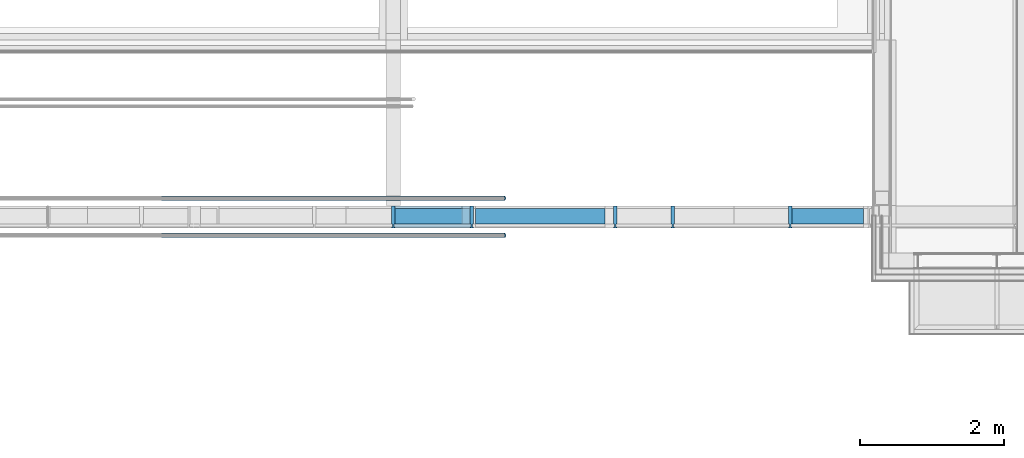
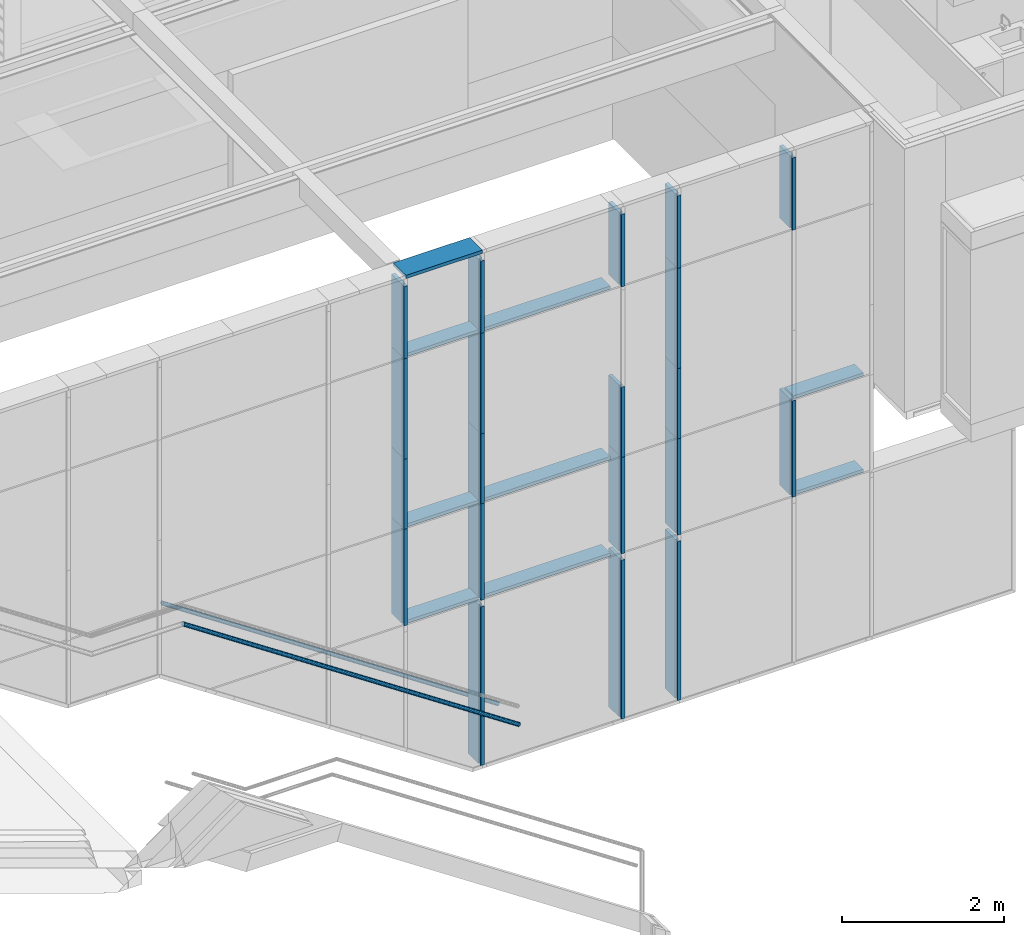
# One storey, part 3 of 137: 31 members, 3 elements without a shape of their own.
"""IFC2X3 building model written with IfcOpenShell, lengths in millimetres."""

from ifc_helpers import new_model, entity, si_unit, converted_unit, derived_unit, money_unit, direction, frame, origin_with_axes, place, context, subcontext, project, spatial, faceted_brep, source, transform, mapped, material, type_object, type_shapes, element, aggregate, save


model = new_model("IFC2X3")

# Units and contexts
model_context = context("Model", 3, precision=0.01, world=origin_with_axes(), true_north=direction((0.0, 1.0)))
body_context = subcontext(model_context, "Body", "Model", "MODEL_VIEW")
ifc_project = project(units=[si_unit("LENGTHUNIT", "METRE", prefix="MILLI"), si_unit("AREAUNIT", "SQUARE_METRE"), si_unit("VOLUMEUNIT", "CUBIC_METRE"), converted_unit("PLANEANGLEUNIT", "DEGREE", entity("IfcPlaneAngleMeasure", 0.0174532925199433), si_unit("PLANEANGLEUNIT", "RADIAN"), dimensions=[0, 0, 0, 0, 0, 0, 0]), money_unit("EUR"), converted_unit("TIMEUNIT", "Year", entity("IfcTimeMeasure", 31556926.0), si_unit("TIMEUNIT", "SECOND"), dimensions=[0, 0, 1, 0, 0, 0, 0]), si_unit("MASSUNIT", "GRAM", prefix="KILO"), si_unit("THERMODYNAMICTEMPERATUREUNIT", "DEGREE_CELSIUS"), si_unit("LUMINOUSINTENSITYUNIT", "LUMEN"), si_unit("ENERGYUNIT", "JOULE", prefix="MEGA"), derived_unit("THERMALCONDUCTANCEUNIT", [(si_unit("POWERUNIT", "WATT"), 1), (si_unit("LENGTHUNIT", "METRE"), -1), (si_unit("THERMODYNAMICTEMPERATUREUNIT", "KELVIN"), -1)]), derived_unit("SPECIFICHEATCAPACITYUNIT", [(si_unit("ENERGYUNIT", "JOULE"), 1), (si_unit("MASSUNIT", "GRAM", prefix="KILO"), -1), (si_unit("THERMODYNAMICTEMPERATUREUNIT", "KELVIN"), -1)]), derived_unit("MASSDENSITYUNIT", [(si_unit("MASSUNIT", "GRAM", prefix="KILO"), 1), (si_unit("VOLUMEUNIT", "CUBIC_METRE"), -1)])], contexts=[model_context])

# Site, building, storey
site_placement = place(None, origin_with_axes())
site = spatial("IfcSite", under=ifc_project, at=site_placement, Name="Site", CompositionType="ELEMENT")
building_placement = place(site_placement, origin_with_axes())
building = spatial("IfcBuilding", under=site, at=building_placement, Name="Naam gebouw", CompositionType="ELEMENT")
storey_placement = place(building_placement, frame((0.0, 0.0, 3960.0), z_axis=(0.0, 0.0, 1.0), x_axis=(1.0, 0.0, 0.0)))
storey = spatial("IfcBuildingStorey", under=building, at=storey_placement, Name="1e verdieping", CompositionType="ELEMENT", Elevation=3960.0)

# Railing, member
railing_type = type_object("IfcRailingType", Name="Railing Type", PredefinedType="NOTDEFINED")
railing_1_placement = place(storey_placement, frame((18789.99987047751, 4162.49999999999, -4086.699999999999), z_axis=(0.0, 0.0, 1.0), x_axis=(1.0, 0.0, 0.0)))
railing_1 = element("IfcRailing", 1, at=railing_1_placement, inside=storey, type_object=railing_type, Name="34_Reling-x", PredefinedType="NOTDEFINED")
ifc_material_1 = material(Name="Metaal - RVS")
member_type_1 = type_object("IfcMemberType", Name="IfcMember", PredefinedType="USERDEFINED")
shared_shape_1 = source(origin_with_axes(), body_context, "Body", "Brep", [
    faceted_brep([(0.0, -30.0, 700.0000000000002), (2.889680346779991, -29.54423259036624, 704.3345205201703), (-4778.437782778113, -29.54423259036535, 3891.886162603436), (-4780.015075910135, -29.99999999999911, 3886.676717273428), (-2.889680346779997, -29.54423259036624, 695.6654794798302), (-5.691559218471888, -28.19077862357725, 691.4626611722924), (-8.320502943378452, -25.98076211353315, 687.5192455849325), (-10.6966323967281, -22.98133329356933, 683.9550514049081), (-12.74775008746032, -19.28362829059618, 680.8783748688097), (-14.41153384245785, -15.0, 678.3826992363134), (-15.63743043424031, -10.26060429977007, 676.5438543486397), (-16.38819161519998, -5.209445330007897, 675.4177125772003), (-16.64100588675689, 0.0, 675.0384911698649), (-16.38819161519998, 5.209445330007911, 675.4177125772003), (-15.63743043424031, 10.26060429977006, 676.5438543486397), (-14.41153384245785, 15.00000000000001, 678.3826992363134), (-12.74775008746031, 19.28362829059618, 680.8783748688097), (-10.69663239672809, 22.98133329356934, 683.9550514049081), (-8.320502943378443, 25.98076211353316, 687.5192455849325), (-5.691559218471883, 28.19077862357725, 691.4626611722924), (-2.889680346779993, 29.54423259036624, 695.6654794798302), (0.0, 30.0, 700.0000000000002), (2.889680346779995, 29.54423259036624, 704.3345205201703), (5.691559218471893, 28.19077862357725, 708.537338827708), (8.320502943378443, 25.98076211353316, 712.4807544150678), (10.69663239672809, 22.98133329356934, 716.0449485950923), (12.74775008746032, 19.28362829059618, 719.1216251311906), (14.41153384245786, 14.99999999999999, 721.6173007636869), (15.63743043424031, 10.26060429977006, 723.4561456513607), (16.38819161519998, 5.209445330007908, 724.5822874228), (16.64100588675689, 0.0, 724.9615088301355), (16.38819161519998, -5.209445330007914, 724.5822874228), (15.63743043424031, -10.26060429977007, 723.4561456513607), (14.41153384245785, -15.00000000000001, 721.6173007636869), (12.74775008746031, -19.28362829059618, 719.1216251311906), (10.69663239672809, -22.98133329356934, 716.0449485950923), (8.32050294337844, -25.98076211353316, 712.4807544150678), (5.691559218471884, -28.19077862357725, 708.537338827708), (-4776.908414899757, -28.19077862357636, 3896.937321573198), (-4775.473441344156, -25.98076211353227, 3901.676717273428), (-4774.176463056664, -22.98133329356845, 3905.960345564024), (-4773.056888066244, -19.28362829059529, 3909.658050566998), (-4772.148734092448, -14.99999999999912, 3912.657479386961), (-4771.479594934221, -10.26060429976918, 3914.867495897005), (-4771.069802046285, -5.209445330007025, 3916.220949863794), (-4770.931806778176, 0.0, 3916.676717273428), (-4771.069802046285, 5.209445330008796, 3916.220949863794), (-4771.479594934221, 10.26060429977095, 3914.867495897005), (-4772.148734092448, 15.00000000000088, 3912.657479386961), (-4773.056888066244, 19.28362829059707, 3909.658050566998), (-4774.176463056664, 22.98133329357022, 3905.960345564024), (-4775.473441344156, 25.98076211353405, 3901.676717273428), (-4776.908414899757, 28.19077862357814, 3896.937321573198), (-4778.437782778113, 29.54423259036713, 3891.886162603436), (-4780.015075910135, 30.00000000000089, 3886.676717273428), (-4781.592369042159, 29.54423259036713, 3881.467271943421), (-4783.121736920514, 28.19077862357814, 3876.416112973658), (-4784.556710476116, 25.98076211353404, 3871.676717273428), (-4785.853688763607, 22.98133329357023, 3867.393088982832), (-4786.973263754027, 19.28362829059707, 3863.695383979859), (-4787.881417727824, 15.0000000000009, 3860.695955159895), (-4788.550556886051, 10.26060429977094, 3858.485938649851), (-4788.960349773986, 5.209445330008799, 3857.132484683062), (-4789.098345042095, 0.0, 3856.676717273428), (-4788.960349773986, -5.20944533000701, 3857.132484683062), (-4788.550556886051, -10.26060429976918, 3858.485938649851), (-4787.881417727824, -14.99999999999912, 3860.695955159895), (-4786.973263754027, -19.28362829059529, 3863.695383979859), (-4785.853688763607, -22.98133329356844, 3867.393088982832), (-4784.556710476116, -25.98076211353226, 3871.676717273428), (-4783.121736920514, -28.19077862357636, 3876.416112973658), (-4781.592369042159, -29.54423259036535, 3881.467271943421)], [[[0, 1, 2, 3]], [[0, 4, 5, 6, 7, 8, 9, 10, 11, 12, 13, 14, 15, 16, 17, 18, 19, 20, 21, 22, 23, 24, 25, 26, 27, 28, 29, 30, 31, 32, 33, 34, 35, 36, 37, 1]], [[1, 37, 38, 2]], [[3, 2, 38, 39, 40, 41, 42, 43, 44, 45, 46, 47, 48, 49, 50, 51, 52, 53, 54, 55, 56, 57, 58, 59, 60, 61, 62, 63, 64, 65, 66, 67, 68, 69, 70, 71]], [[4, 0, 3, 71]], [[5, 4, 71, 70]], [[6, 5, 70, 69]], [[7, 6, 69, 68]], [[8, 7, 68, 67]], [[9, 8, 67, 66]], [[10, 9, 66, 65]], [[11, 10, 65, 64]], [[12, 11, 64, 63]], [[13, 12, 63, 62]], [[14, 13, 62, 61]], [[15, 14, 61, 60]], [[16, 15, 60, 59]], [[17, 16, 59, 58]], [[18, 17, 58, 57]], [[19, 18, 57, 56]], [[20, 19, 56, 55]], [[21, 20, 55, 54]], [[22, 21, 54, 53]], [[23, 22, 53, 52]], [[24, 23, 52, 51]], [[25, 24, 51, 50]], [[26, 25, 50, 49]], [[27, 26, 49, 48]], [[28, 27, 48, 47]], [[29, 28, 47, 46]], [[30, 29, 46, 45]], [[31, 30, 45, 44]], [[32, 31, 44, 43]], [[33, 32, 43, 42]], [[34, 33, 42, 41]], [[35, 34, 41, 40]], [[36, 35, 40, 39]], [[37, 36, 39, 38]]]),
])
type_shapes(member_type_1, [shared_shape_1])
member_1_placement = place(railing_1_placement, frame((-1929.992462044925, -99.99999999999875, 657.5735931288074), z_axis=(0.0, 0.0, 1.0), x_axis=(1.0, 0.0, 0.0)))
member_1 = element("IfcMember", 2, at=member_1_placement, type_object=member_type_1, material=ifc_material_1, Name="h3 Staal legeringen_Regel-x", context=body_context, shape_type="MappedRepresentation", body=[
    mapped(shared_shape_1, transform((2390.007537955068, 0.0, -657.5735931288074))),
])
aggregate(railing_1, [member_1])

railing_2_placement = place(storey_placement, frame((18789.99987047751, 4479.999999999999, -4086.699999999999), z_axis=(0.0, 0.0, 1.0), x_axis=(1.0, 0.0, 0.0)))
railing_2 = element("IfcRailing", 3, at=railing_2_placement, inside=storey, type_object=railing_type, Name="34_Reling-x", PredefinedType="NOTDEFINED")
member_2_placement = place(railing_2_placement, frame((-1929.992462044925, 99.99999999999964, 657.5735931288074), z_axis=(0.0, 0.0, 1.0), x_axis=(1.0, 0.0, 0.0)))
member_2 = element("IfcMember", 4, at=member_2_placement, type_object=member_type_1, material=ifc_material_1, Name="_Regel-x", context=body_context, shape_type="MappedRepresentation", body=[
    mapped(shared_shape_1, transform((2390.007537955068, 0.0, -657.5735931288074))),
])
aggregate(railing_2, [member_2])

# Curtain wall, members
curtain_wall_type = type_object("IfcCurtainWallType", Name="Curtain Wall Type", PredefinedType="NOTDEFINED")
curtain_wall_placement = place(storey_placement, frame((8473.014787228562, 4364.43626274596, -3949.999921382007), z_axis=(0.0, 0.0, 1.0), x_axis=(1.0, 0.0, 0.0)))
curtain_wall = element("IfcCurtainWall", 5, at=curtain_wall_placement, inside=storey, type_object=curtain_wall_type, Name="21_Vliesgevel-x")
ifc_material_2 = material(Name="Metaal - Staal AFW")
member_type_2 = type_object("IfcMemberType", Name="Boundary Frame 50 x 313", PredefinedType="MULLION")
shared_shape_2 = source(origin_with_axes(), body_context, "Body", "Brep", [
    faceted_brep([(-35.0, -17.4, 0.0), (-35.0, -17.4, 1089.999826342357), (-35.0, 21.0, 1089.999826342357), (-35.0, 21.0, 0.0), (-15.0, -17.4, 0.0), (-15.0, -17.4, 1089.999826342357), (-15.0, 21.0, 1089.999826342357), (-15.0, 21.0, 0.0)], [[[0, 1, 2, 3]], [[4, 5, 1, 0]], [[1, 5, 6, 2]], [[3, 2, 6, 7]], [[0, 3, 7, 4]], [[7, 6, 5, 4]]]),
    faceted_brep([(-15.0, -21.0, 0.0), (-15.0, -21.0, 1089.999826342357), (-15.0, 21.0, 1089.999826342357), (-15.0, 21.0, 0.0), (0.0, -21.0, 0.0), (0.0, -21.0, 1089.999826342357), (0.0, 21.0, 1089.999826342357), (0.0, 21.0, 0.0)], [[[0, 1, 2, 3]], [[4, 5, 1, 0]], [[1, 5, 6, 2]], [[3, 2, 6, 7]], [[0, 3, 7, 4]], [[7, 6, 5, 4]]]),
    faceted_brep([(-50.0, -272.0, 0.0), (-50.0, -272.0, 1089.999826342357), (-50.0, -17.4, 1089.999826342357), (-50.0, -17.4, 0.0), (0.0, -272.0, 0.0), (0.0, -272.0, 1089.999826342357), (0.0, -17.4, 1089.999826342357), (0.0, -17.4, 0.0)], [[[0, 1, 2, 3]], [[4, 5, 1, 0]], [[1, 5, 6, 2]], [[3, 2, 6, 7]], [[0, 3, 7, 4]], [[7, 6, 5, 4]]]),
    faceted_brep([(0.0, 40.99999999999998, 0.0), (0.0, 40.99999999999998, 1089.999826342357), (0.0, 21.0, 1089.999826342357), (0.0, 21.0, 0.0), (-50.0, 40.99999999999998, 0.0), (-50.0, 40.99999999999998, 1089.999826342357), (-50.0, 21.0, 1089.999826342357), (-50.0, 21.0, 0.0)], [[[0, 1, 2, 3]], [[4, 5, 1, 0]], [[1, 5, 6, 2]], [[3, 2, 6, 7]], [[0, 3, 7, 4]], [[7, 6, 5, 4]]]),
])
type_shapes(member_type_2, [shared_shape_2])
member_3_placement = place(curtain_wall_placement, frame((9226.979722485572, -161.4362627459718, 7800.000020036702), z_axis=(1.0, 0.0, 0.0), x_axis=(0.0, 0.0, 1.0)))
member_3 = element("IfcMember", 6, at=member_3_placement, type_object=member_type_2, material=ifc_material_2, Name="_Kader-x", ObjectType="MULLION", context=body_context, shape_type="MappedRepresentation", body=[
    mapped(shared_shape_2, transform((0.0, 0.0, 0.0))),
])
member_type_3 = type_object("IfcMemberType", Name="Transom Frame 50 x 258", PredefinedType="MULLION")
shared_shape_3 = source(origin_with_axes(), body_context, "Body", "Brep", [
    faceted_brep([(25.0, -17.4, 24.99999999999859), (25.0, -17.4, 1020.019917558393), (25.0, -237.0, 1020.019917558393), (25.0, -237.0, 24.99999999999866), (-25.0, -17.4, 24.99999999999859), (-25.0, -17.4, 1020.019917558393), (-25.0, -237.0, 1020.019917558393), (-25.0, -237.0, 24.99999999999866)], [[[0, 1, 2, 3]], [[4, 5, 1, 0]], [[2, 1, 5, 6]], [[3, 2, 6, 7]], [[3, 7, 4, 0]], [[7, 6, 5, 4]]]),
])
member_4_placement = place(curtain_wall_placement, frame((14749.92173168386, -161.4362627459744, 2535.000025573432), z_axis=(1.0, 0.0, 0.0), x_axis=(0.0, 0.0, 1.0)))
member_4 = element("IfcMember", 7, at=member_4_placement, type_object=member_type_3, material=ifc_material_2, Name="h METAAL_Kader-x", ObjectType="MULLION", context=body_context, shape_type="MappedRepresentation", body=[
    mapped(shared_shape_3, transform((0.0, 0.0, 0.0))),
])
member_5_placement = place(curtain_wall_placement, frame((14749.92173168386, -161.4362627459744, 3984.999927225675), z_axis=(1.0, 0.0, 0.0), x_axis=(0.0, 0.0, 1.0)))
member_5 = element("IfcMember", 8, at=member_5_placement, type_object=member_type_3, material=ifc_material_2, Name="_Kader-x", ObjectType="MULLION", context=body_context, shape_type="MappedRepresentation", body=[
    mapped(shared_shape_3, transform((0.0, 0.0, 0.0))),
])
shared_shape_4 = source(origin_with_axes(), body_context, "Body", "Brep", [
    faceted_brep([(25.0, -237.0, 0.0), (25.0, -17.4, 0.0), (25.0, -17.4, 1800.000000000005), (25.0, -237.0, 1800.000000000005), (-25.0, -237.0, 0.0), (-25.0, -17.4, 0.0), (-25.0, -17.4, 1800.000000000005), (-25.0, -237.0, 1800.000000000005)], [[[0, 1, 2, 3]], [[0, 4, 5, 1]], [[1, 5, 6, 2]], [[3, 2, 6, 7]], [[4, 0, 3, 7]], [[5, 4, 7, 6]]]),
])
member_6_placement = place(curtain_wall_placement, frame((10369.94164561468, -161.4362627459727, 2535.000025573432), z_axis=(1.0, 0.0, 0.0), x_axis=(0.0, 0.0, 1.0)))
member_6 = element("IfcMember", 9, at=member_6_placement, type_object=member_type_3, material=ifc_material_2, Name="h METAAL_Kader-x", ObjectType="MULLION", context=body_context, shape_type="MappedRepresentation", body=[
    mapped(shared_shape_4, transform((0.0, 0.0, 0.0))),
])
member_7_placement = place(curtain_wall_placement, frame((10369.94164561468, -161.4362627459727, 3984.999927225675), z_axis=(1.0, 0.0, 0.0), x_axis=(0.0, 0.0, 1.0)))
member_7 = element("IfcMember", 10, at=member_7_placement, type_object=member_type_3, material=ifc_material_2, Name="_Kader-x", ObjectType="MULLION", context=body_context, shape_type="MappedRepresentation", body=[
    mapped(shared_shape_4, transform((0.0, 0.0, 0.0))),
])
member_8_placement = place(curtain_wall_placement, frame((10369.94164561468, -161.4362627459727, 6549.999915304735), z_axis=(1.0, 0.0, 0.0), x_axis=(0.0, 0.0, 1.0)))
member_8 = element("IfcMember", 11, at=member_8_placement, type_object=member_type_3, material=ifc_material_2, Name="_Kader-x", ObjectType="MULLION", context=body_context, shape_type="MappedRepresentation", body=[
    mapped(shared_shape_4, transform((0.0, 0.0, 0.0))),
])
member_type_4 = type_object("IfcMemberType", Name="Mullion Frame 50 x 313", PredefinedType="MULLION")
shared_shape_5 = source(origin_with_axes(), body_context, "Body", "Brep", [
    faceted_brep([(10.0, -17.4, 0.0), (10.0, 21.0, 0.0), (10.0, 21.0, 1449.999901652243), (10.0, -17.4, 1449.999901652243), (-10.0, -17.4, 0.0), (-10.0, 21.0, 0.0), (-10.0, 21.0, 1449.999901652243), (-10.0, -17.4, 1449.999901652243)], [[[0, 1, 2, 3]], [[0, 4, 5, 1]], [[1, 5, 6, 2]], [[3, 2, 6, 7]], [[4, 0, 3, 7]], [[5, 4, 7, 6]]]),
    faceted_brep([(25.0, -272.0, 0.0), (25.0, -17.4, 0.0), (25.0, -17.4, 1449.999901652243), (25.0, -272.0, 1449.999901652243), (-25.0, -272.0, 0.0), (-25.0, -17.4, 0.0), (-25.0, -17.4, 1449.999901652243), (-25.0, -272.0, 1449.999901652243)], [[[0, 1, 2, 3]], [[0, 4, 5, 1]], [[1, 5, 6, 2]], [[3, 2, 6, 7]], [[4, 0, 3, 7]], [[5, 4, 7, 6]]]),
    faceted_brep([(-25.0, 40.49999999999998, 0.0), (-25.0, 21.0, 0.0), (-25.0, 21.0, 1449.999901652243), (-25.0, 40.49999999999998, 1449.999901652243), (25.0, 40.49999999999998, 0.0), (25.0, 21.0, 0.0), (25.0, 21.0, 1449.999901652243), (25.0, 40.49999999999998, 1449.999901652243)], [[[0, 1, 2, 3]], [[0, 4, 5, 1]], [[1, 5, 6, 2]], [[3, 2, 6, 7]], [[4, 0, 3, 7]], [[5, 4, 7, 6]]]),
])
member_9_placement = place(curtain_wall_placement, frame((14749.92173168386, -161.4362627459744, 2535.000025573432), z_axis=(0.0, 0.0, 1.0), x_axis=(-1.0, 0.0, 0.0)))
member_9 = element("IfcMember", 12, at=member_9_placement, type_object=member_type_4, material=ifc_material_2, Name="h METAAL_Kader-x", ObjectType="MULLION", context=body_context, shape_type="MappedRepresentation", body=[
    mapped(shared_shape_5, transform((0.0, 0.0, 0.0))),
])
member_10_placement = place(curtain_wall_placement, frame((13116.98043337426, -161.4362627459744, 2535.000025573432), z_axis=(0.0, 0.0, 1.0), x_axis=(-1.0, 0.0, 0.0)))
member_10 = element("IfcMember", 13, at=member_10_placement, type_object=member_type_4, material=ifc_material_2, Name="_Kader-x", ObjectType="MULLION", context=body_context, shape_type="MappedRepresentation", body=[
    mapped(shared_shape_5, transform((0.0, 0.0, 0.0))),
])
member_11_placement = place(curtain_wall_placement, frame((12316.98041549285, -161.4362627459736, 2535.000025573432), z_axis=(0.0, 0.0, 1.0), x_axis=(-1.0, 0.0, 0.0)))
member_11 = element("IfcMember", 14, at=member_11_placement, type_object=member_type_4, material=ifc_material_2, Name="_Kader-x", ObjectType="MULLION", context=body_context, shape_type="MappedRepresentation", body=[
    mapped(shared_shape_5, transform((0.0, 0.0, 0.0))),
])
member_type_5 = type_object("IfcMemberType", Name="50 x 313", PredefinedType="MULLION")
member_12_placement = place(curtain_wall_placement, frame((9226.979747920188, -161.4362627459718, 2535.000025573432), z_axis=(0.0, 0.0, 1.0), x_axis=(-1.0, 0.0, 0.0)))
member_12 = element("IfcMember", 15, at=member_12_placement, type_object=member_type_5, material=ifc_material_2, Name="_Kader-x", ObjectType="MULLION", context=body_context, shape_type="MappedRepresentation", body=[
    mapped(shared_shape_5, transform((0.0, 0.0, 0.0))),
])
member_13_placement = place(curtain_wall_placement, frame((10316.98035228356, -161.4362627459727, 2535.000025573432), z_axis=(1.481792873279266e-08, 0.0, 0.9999999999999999), x_axis=(-0.9999999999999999, 0.0, 1.481792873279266e-08)))
member_13 = element("IfcMember", 16, at=member_13_placement, type_object=member_type_4, material=ifc_material_2, Name="_Kader-x", ObjectType="MULLION", context=body_context, shape_type="MappedRepresentation", body=[
    mapped(shared_shape_5, transform((0.0, 0.0, 0.0))),
])
shared_shape_6 = source(origin_with_axes(), body_context, "Body", "Brep", [
    faceted_brep([(10.0, -17.4, -8.656350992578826e-08), (10.0, 21.0, -8.656350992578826e-08), (10.0, 21.0, 1089.999852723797), (10.0, -17.4, 1089.999852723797), (-10.0, -17.4, -8.656350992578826e-08), (-10.0, 21.0, -8.656350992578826e-08), (-10.0, 21.0, 1089.999852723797), (-10.0, -17.4, 1089.999852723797)], [[[0, 1, 2, 3]], [[0, 4, 5, 1]], [[1, 5, 6, 2]], [[3, 2, 6, 7]], [[4, 0, 3, 7]], [[5, 4, 7, 6]]]),
    faceted_brep([(25.0, -272.0, -8.656350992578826e-08), (25.0, -17.4, -8.656350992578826e-08), (25.0, -17.4, 1089.999852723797), (25.0, -272.0, 1089.999852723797), (-25.0, -272.0, -8.656350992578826e-08), (-25.0, -17.4, -8.656350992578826e-08), (-25.0, -17.4, 1089.999852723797), (-25.0, -272.0, 1089.999852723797)], [[[0, 1, 2, 3]], [[0, 4, 5, 1]], [[1, 5, 6, 2]], [[3, 2, 6, 7]], [[4, 0, 3, 7]], [[5, 4, 7, 6]]]),
    faceted_brep([(-25.0, 40.49999999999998, -8.656350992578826e-08), (-25.0, 21.0, -8.656350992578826e-08), (-25.0, 21.0, 1089.999852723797), (-25.0, 40.49999999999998, 1089.999852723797), (25.0, 40.49999999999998, -8.656350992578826e-08), (25.0, 21.0, -8.656350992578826e-08), (25.0, 21.0, 1089.999852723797), (25.0, 40.49999999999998, 1089.999852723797)], [[[0, 1, 2, 3]], [[0, 4, 5, 1]], [[1, 5, 6, 2]], [[3, 2, 6, 7]], [[4, 0, 3, 7]], [[5, 4, 7, 6]]]),
])
member_14_placement = place(curtain_wall_placement, frame((14749.92173186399, -161.4362627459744, 6549.999915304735), z_axis=(3.581826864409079e-09, 0.0, 1.0), x_axis=(-1.0, 0.0, 3.581826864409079e-09)))
member_14 = element("IfcMember", 17, at=member_14_placement, type_object=member_type_4, material=ifc_material_2, Name="h METAAL_Kader-x", ObjectType="MULLION", context=body_context, shape_type="MappedRepresentation", body=[
    mapped(shared_shape_6, transform((0.0, 0.0, 0.0))),
])
member_15_placement = place(curtain_wall_placement, frame((13116.98043308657, -161.4362627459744, 6549.999915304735), z_axis=(-5.720844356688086e-09, 0.0, 1.0), x_axis=(-1.0, 0.0, -5.720844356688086e-09)))
member_15 = element("IfcMember", 18, at=member_15_placement, type_object=member_type_4, material=ifc_material_2, Name="_Kader-x", ObjectType="MULLION", context=body_context, shape_type="MappedRepresentation", body=[
    mapped(shared_shape_6, transform((0.0, 0.0, 0.0))),
])
member_16_placement = place(curtain_wall_placement, frame((10316.98037468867, -161.4362627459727, 6549.999915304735), z_axis=(1.827730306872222e-08, 0.0, 0.9999999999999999), x_axis=(-0.9999999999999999, 0.0, 1.827730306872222e-08)))
member_16 = element("IfcMember", 19, at=member_16_placement, type_object=member_type_4, material=ifc_material_2, Name="_Kader-x", ObjectType="MULLION", context=body_context, shape_type="MappedRepresentation", body=[
    mapped(shared_shape_6, transform((0.0, 0.0, 0.0))),
])
member_17_placement = place(curtain_wall_placement, frame((9226.979747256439, -161.4362627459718, 6549.999915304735), z_axis=(-1.319913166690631e-08, 0.0, 0.9999999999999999), x_axis=(-0.9999999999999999, 0.0, -1.319913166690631e-08)))
member_17 = element("IfcMember", 20, at=member_17_placement, type_object=member_type_5, material=ifc_material_2, Name="_Kader-x", ObjectType="MULLION", context=body_context, shape_type="MappedRepresentation", body=[
    mapped(shared_shape_6, transform((0.0, 0.0, 0.0))),
])
member_18_placement = place(curtain_wall_placement, frame((12316.98041549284, -161.4362627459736, 6549.999915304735), z_axis=(0.0, 0.0, 1.0), x_axis=(-1.0, 0.0, 0.0)))
member_18 = element("IfcMember", 21, at=member_18_placement, type_object=member_type_4, material=ifc_material_2, Name="_Kader-x", ObjectType="MULLION", context=body_context, shape_type="MappedRepresentation", body=[
    mapped(shared_shape_6, transform((0.0, 0.0, 0.0))),
])
shared_shape_7 = source(origin_with_axes(), body_context, "Body", "Brep", [
    faceted_brep([(10.0, -17.4, 0.0), (10.0, 21.0, 0.0), (10.0, 21.0, 1054.999839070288), (10.0, -17.4, 1054.999839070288), (-10.0, -17.4, 0.0), (-10.0, 21.0, 0.0), (-10.0, 21.0, 1054.999839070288), (-10.0, -17.4, 1054.999839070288)], [[[0, 1, 2, 3]], [[0, 4, 5, 1]], [[1, 5, 6, 2]], [[3, 2, 6, 7]], [[4, 0, 3, 7]], [[5, 4, 7, 6]]]),
    faceted_brep([(25.0, -272.0, 0.0), (25.0, -17.4, 0.0), (25.0, -17.4, 1054.999839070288), (25.0, -272.0, 1054.999839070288), (-25.0, -272.0, 0.0), (-25.0, -17.4, 0.0), (-25.0, -17.4, 1054.999839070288), (-25.0, -272.0, 1054.999839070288)], [[[0, 1, 2, 3]], [[0, 4, 5, 1]], [[1, 5, 6, 2]], [[3, 2, 6, 7]], [[4, 0, 3, 7]], [[5, 4, 7, 6]]]),
    faceted_brep([(-25.0, 40.49999999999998, 0.0), (-25.0, 21.0, 0.0), (-25.0, 21.0, 1054.999839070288), (-25.0, 40.49999999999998, 1054.999839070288), (25.0, 40.49999999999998, 0.0), (25.0, 21.0, 0.0), (25.0, 21.0, 1054.999839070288), (25.0, 40.49999999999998, 1054.999839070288)], [[[0, 1, 2, 3]], [[0, 4, 5, 1]], [[1, 5, 6, 2]], [[3, 2, 6, 7]], [[4, 0, 3, 7]], [[5, 4, 7, 6]]]),
])
member_19_placement = place(curtain_wall_placement, frame((13116.98043337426, -161.4362627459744, 3984.999927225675), z_axis=(0.0, 0.0, 1.0), x_axis=(-1.0, 0.0, 0.0)))
member_19 = element("IfcMember", 22, at=member_19_placement, type_object=member_type_4, material=ifc_material_2, Name="_Kader-x", ObjectType="MULLION", context=body_context, shape_type="MappedRepresentation", body=[
    mapped(shared_shape_7, transform((0.0, 0.0, 0.0))),
])
member_20_placement = place(curtain_wall_placement, frame((9226.979747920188, -161.4362627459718, 3984.999927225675), z_axis=(0.0, 0.0, 1.0), x_axis=(-1.0, 0.0, 0.0)))
member_20 = element("IfcMember", 23, at=member_20_placement, type_object=member_type_5, material=ifc_material_2, Name="_Kader-x", ObjectType="MULLION", context=body_context, shape_type="MappedRepresentation", body=[
    mapped(shared_shape_7, transform((0.0, 0.0, 0.0))),
])
member_21_placement = place(curtain_wall_placement, frame((10316.98037376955, -161.4362627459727, 3984.999927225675), z_axis=(0.0, 0.0, 1.0), x_axis=(-1.0, 0.0, 0.0)))
member_21 = element("IfcMember", 24, at=member_21_placement, type_object=member_type_4, material=ifc_material_2, Name="_Kader-x", ObjectType="MULLION", context=body_context, shape_type="MappedRepresentation", body=[
    mapped(shared_shape_7, transform((0.0, 0.0, 0.0))),
])
member_22_placement = place(curtain_wall_placement, frame((12316.98041549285, -161.4362627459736, 3984.999927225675), z_axis=(0.0, 0.0, 1.0), x_axis=(-1.0, 0.0, 0.0)))
member_22 = element("IfcMember", 25, at=member_22_placement, type_object=member_type_4, material=ifc_material_2, Name="_Kader-x", ObjectType="MULLION", context=body_context, shape_type="MappedRepresentation", body=[
    mapped(shared_shape_7, transform((0.0, 0.0, 0.0))),
])
shared_shape_8 = source(origin_with_axes(), body_context, "Body", "Brep", [
    faceted_brep([(10.0, 21.0, 49.99999983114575), (10.0, 21.0, 2439.999727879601), (10.0, -17.4, 2439.999727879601), (10.0, -17.4, 50.00000013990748), (-10.0, 21.0, 49.99999983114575), (-10.0, 21.0, 2439.999727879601), (-10.0, -17.4, 2439.999727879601), (-10.0, -17.4, 50.00000013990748)], [[[0, 1, 2, 3]], [[4, 5, 1, 0]], [[2, 1, 5, 6]], [[3, 2, 6, 7]], [[3, 7, 4, 0]], [[7, 6, 5, 4]]]),
    faceted_brep([(25.0, -17.4, 50.00000013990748), (25.0, -17.4, 2439.999727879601), (25.0, -272.0, 2439.999727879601), (25.0, -272.0, 50.00000218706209), (-25.0, -17.4, 50.00000013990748), (-25.0, -17.4, 2439.999727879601), (-25.0, -272.0, 2439.999727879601), (-25.0, -272.0, 50.00000218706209)], [[[0, 1, 2, 3]], [[4, 5, 1, 0]], [[2, 1, 5, 6]], [[3, 2, 6, 7]], [[3, 7, 4, 0]], [[7, 6, 5, 4]]]),
    faceted_brep([(-25.0, 21.0, 49.99999983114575), (-25.0, 21.0, 2439.999727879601), (-25.0, 40.49999999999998, 2439.999727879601), (-25.0, 40.49999999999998, 49.99999967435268), (25.0, 21.0, 49.99999983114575), (25.0, 21.0, 2439.999727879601), (25.0, 40.49999999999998, 2439.999727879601), (25.0, 40.49999999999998, 49.99999967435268)], [[[0, 1, 2, 3]], [[4, 5, 1, 0]], [[2, 1, 5, 6]], [[3, 2, 6, 7]], [[3, 7, 4, 0]], [[7, 6, 5, 4]]]),
])
member_23_placement = place(curtain_wall_placement, frame((12316.98041567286, -161.4362627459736, 3.861439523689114e-05), z_axis=(0.0, 0.0, 1.0), x_axis=(-1.0, 0.0, 0.0)))
member_23 = element("IfcMember", 26, at=member_23_placement, type_object=member_type_4, material=ifc_material_2, Name="_Kader-x", ObjectType="MULLION", context=body_context, shape_type="MappedRepresentation", body=[
    mapped(shared_shape_8, transform((0.0, 0.0, 0.0))),
])
member_24_placement = place(curtain_wall_placement, frame((13116.98042652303, -161.4362627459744, 3.861439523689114e-05), z_axis=(2.807880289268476e-09, 0.0, 1.0), x_axis=(-1.0, 0.0, 2.807880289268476e-09)))
member_24 = element("IfcMember", 27, at=member_24_placement, type_object=member_type_4, material=ifc_material_2, Name="_Kader-x", ObjectType="MULLION", context=body_context, shape_type="MappedRepresentation", body=[
    mapped(shared_shape_8, transform((0.0, 0.0, 0.0))),
])
member_25_placement = place(curtain_wall_placement, frame((10316.98035005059, -161.4362627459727, 3.861439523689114e-05), z_axis=(3.382242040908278e-10, 0.0, 1.0), x_axis=(-1.0, 0.0, 3.382242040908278e-10)))
member_25 = element("IfcMember", 28, at=member_25_placement, type_object=member_type_4, material=ifc_material_2, Name="_Kader-x", ObjectType="MULLION", context=body_context, shape_type="MappedRepresentation", body=[
    mapped(shared_shape_8, transform((0.0, 0.0, 0.0))),
])
shared_shape_9 = source(origin_with_axes(), body_context, "Body", "Brep", [
    faceted_brep([(10.0, -17.4, -4.762904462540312e-09), (10.0, 21.0, -4.762904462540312e-09), (10.0, 21.0, 1510.000149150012), (10.0, -17.4, 1510.000149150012), (-10.0, -17.4, -4.762904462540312e-09), (-10.0, 21.0, -4.762904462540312e-09), (-10.0, 21.0, 1510.000149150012), (-10.0, -17.4, 1510.000149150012)], [[[0, 1, 2, 3]], [[0, 4, 5, 1]], [[1, 5, 6, 2]], [[3, 2, 6, 7]], [[4, 0, 3, 7]], [[5, 4, 7, 6]]]),
    faceted_brep([(25.0, -272.0, -4.762904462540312e-09), (25.0, -17.4, -4.762904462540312e-09), (25.0, -17.4, 1510.000149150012), (25.0, -272.0, 1510.000149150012), (-25.0, -272.0, -4.762904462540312e-09), (-25.0, -17.4, -4.762904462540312e-09), (-25.0, -17.4, 1510.000149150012), (-25.0, -272.0, 1510.000149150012)], [[[0, 1, 2, 3]], [[0, 4, 5, 1]], [[1, 5, 6, 2]], [[3, 2, 6, 7]], [[4, 0, 3, 7]], [[5, 4, 7, 6]]]),
    faceted_brep([(-25.0, 40.49999999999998, -4.762904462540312e-09), (-25.0, 21.0, -4.762904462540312e-09), (-25.0, 21.0, 1510.000149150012), (-25.0, 40.49999999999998, 1510.000149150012), (25.0, 40.49999999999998, -4.762904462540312e-09), (25.0, 21.0, -4.762904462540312e-09), (25.0, 21.0, 1510.000149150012), (25.0, 40.49999999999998, 1510.000149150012)], [[[0, 1, 2, 3]], [[0, 4, 5, 1]], [[1, 5, 6, 2]], [[3, 2, 6, 7]], [[4, 0, 3, 7]], [[5, 4, 7, 6]]]),
])
type_shapes(member_type_4, [shared_shape_5, shared_shape_6, shared_shape_7, shared_shape_8, shared_shape_9])
type_shapes(member_type_5, [shared_shape_9, shared_shape_5, shared_shape_7, shared_shape_6])
member_26_placement = place(curtain_wall_placement, frame((13116.98043337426, -161.4362627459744, 5039.999766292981), z_axis=(-1.905195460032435e-10, 0.0, 1.0), x_axis=(-1.0, 0.0, -1.905195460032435e-10)))
member_26 = element("IfcMember", 29, at=member_26_placement, type_object=member_type_4, material=ifc_material_2, Name="h METAAL_Kader-x", ObjectType="MULLION", context=body_context, shape_type="MappedRepresentation", body=[
    mapped(shared_shape_9, transform((0.0, 0.0, 0.0))),
])
member_27_placement = place(curtain_wall_placement, frame((9226.979747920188, -161.4362627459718, 5039.999766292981), z_axis=(-4.395694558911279e-10, 0.0, 1.0), x_axis=(-1.0, 0.0, -4.395694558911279e-10)))
member_27 = element("IfcMember", 30, at=member_27_placement, type_object=member_type_5, material=ifc_material_2, Name="_Kader-x", ObjectType="MULLION", context=body_context, shape_type="MappedRepresentation", body=[
    mapped(shared_shape_9, transform((0.0, 0.0, 0.0))),
])
member_28_placement = place(curtain_wall_placement, frame((10316.98037376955, -161.4362627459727, 5039.999766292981), z_axis=(6.086856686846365e-10, 0.0, 1.0), x_axis=(-1.0, 0.0, 6.086856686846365e-10)))
member_28 = element("IfcMember", 31, at=member_28_placement, type_object=member_type_4, material=ifc_material_2, Name="_Kader-x", ObjectType="MULLION", context=body_context, shape_type="MappedRepresentation", body=[
    mapped(shared_shape_9, transform((0.0, 0.0, 0.0))),
])
shared_shape_10 = source(origin_with_axes(), body_context, "Body", "Brep", [
    faceted_brep([(25.0, -17.4, 24.99999999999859), (25.0, -17.4, 1065.000625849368), (25.0, -237.0, 1065.000625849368), (25.0, -237.0, 24.99999999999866), (-25.0, -17.4, 24.99999999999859), (-25.0, -17.4, 1065.000625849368), (-25.0, -237.0, 1065.000625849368), (-25.0, -237.0, 24.99999999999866)], [[[0, 1, 2, 3]], [[4, 5, 1, 0]], [[2, 1, 5, 6]], [[3, 2, 6, 7]], [[3, 7, 4, 0]], [[7, 6, 5, 4]]]),
])
type_shapes(member_type_3, [shared_shape_3, shared_shape_4, shared_shape_10])
member_29_placement = place(curtain_wall_placement, frame((9226.979747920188, -161.4362627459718, 3984.999927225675), z_axis=(1.0, 0.0, 0.0), x_axis=(0.0, 0.0, 1.0)))
member_29 = element("IfcMember", 32, at=member_29_placement, type_object=member_type_3, material=ifc_material_2, Name="h METAAL_Kader-x", ObjectType="MULLION", context=body_context, shape_type="MappedRepresentation", body=[
    mapped(shared_shape_10, transform((0.0, 0.0, 0.0))),
])
member_30_placement = place(curtain_wall_placement, frame((9226.979747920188, -161.4362627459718, 2535.000025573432), z_axis=(1.0, 0.0, 0.0), x_axis=(0.0, 0.0, 1.0)))
member_30 = element("IfcMember", 33, at=member_30_placement, type_object=member_type_3, material=ifc_material_2, Name="_Kader-x", ObjectType="MULLION", context=body_context, shape_type="MappedRepresentation", body=[
    mapped(shared_shape_10, transform((0.0, 0.0, 0.0))),
])
member_31_placement = place(curtain_wall_placement, frame((9226.979747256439, -161.4362627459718, 6549.999915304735), z_axis=(1.0, 0.0, 0.0), x_axis=(0.0, 0.0, 1.0)))
member_31 = element("IfcMember", 34, at=member_31_placement, type_object=member_type_3, material=ifc_material_2, Name="_Kader-x", ObjectType="MULLION", context=body_context, shape_type="MappedRepresentation", body=[
    mapped(shared_shape_10, transform((0.0, 0.0, 0.0))),
])
aggregate(curtain_wall, [member_4, member_6, member_7, member_5, member_9, member_14, member_26, member_10, member_15, member_19, member_11, member_23, member_24, member_27, member_12, member_20, member_21, member_29, member_16, member_30, member_13, member_25, member_17, member_3, member_22, member_31, member_28, member_8, member_18])

save(model, "model.ifc")
